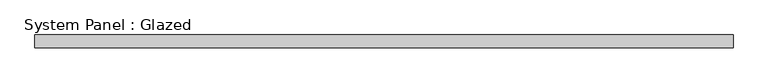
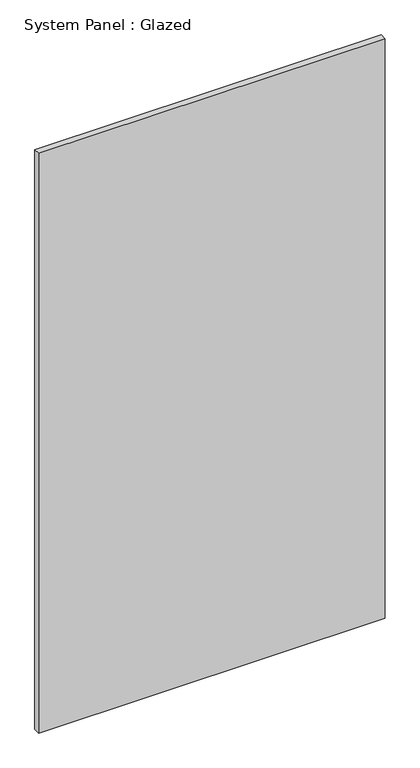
"""IFC4 building model written with IfcOpenShell, lengths in millimetres: plate geometry, System Panel : Glazed."""

from ifc_helpers import new_model, si_unit, origin, origin_with_axes, place, context, project, spatial, polyline, outline, extrude, source, transform, mapped, element, save


def system_panel_glazed_6823b24f(model_context):
    return source(origin(), model_context, "Body", "SweptSolid", [
        extrude(outline(polyline([(694.2581768, 19.05), (-694.2581768, 19.05), (-694.2581768, 44.45), (694.2581768, 44.45), (694.2581768, 19.05)])), origin_with_axes(), (0.0, 0.0, 1.0), 2455.3333333),
    ])


if __name__ == "__main__":
    model = new_model("IFC4")
    model_context = context("Model", 3, world=origin())
    ifc_project = project(units=[si_unit("LENGTHUNIT", "METRE", prefix="MILLI")], contexts=[model_context])
    site = spatial("IfcSite", under=ifc_project)
    building = spatial("IfcBuilding", under=site)
    placement = place(None, origin())
    system_panel_glazed_shape = system_panel_glazed_6823b24f(model_context)
    element("IfcPlate", 1, ObjectType="System Panel : Glazed", at=placement, inside=building, context=model_context, shape_type="MappedRepresentation", body=[
        mapped(system_panel_glazed_shape, transform((0.0, 0.0, 0.0), x_axis=(1.0, 0.0, 0.0), y_axis=(0.0, 1.0, 0.0), z_axis=(0.0, 0.0, 1.0))),
    ])
    save(model, "model.ifc")
